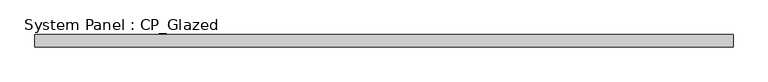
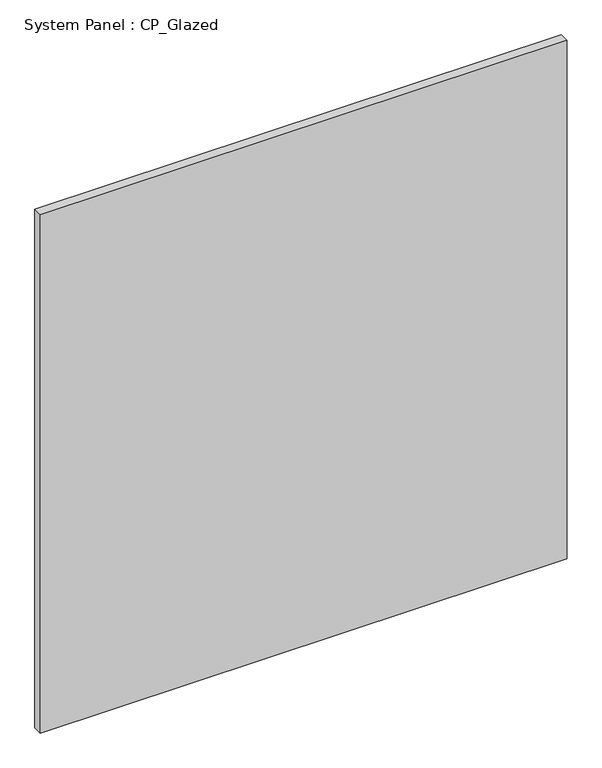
"""IFC4 building model written with IfcOpenShell, lengths in millimetres: plate geometry, System Panel : CP_Glazed."""

import ifcopenshell
import ifcopenshell.guid

model = None  # the IFC model being written
_history = None  # IfcOwnerHistory: only IFC2X3 demands one
_inside = {}  # id of a spatial element -> (the spatial element, [elements in it])
_under = {}  # id of a project, library or spatial element -> (it, [spatial elements below it])
_declared = {}  # id of a project -> (the project, [libraries it declares])
_typed = {}  # id of a type object -> (the type object, [elements of that type])
_made_of = {}  # id of a material, layer set ... -> (it, [elements and type objects made of it])


def new_model(schema):
    """Start an empty IFC model of exactly this schema.

    Asked for "IFC4X3", IfcOpenShell would pick the latest addendum, in which some entities
    have other attributes; the version numbers below select the first issue.
    IFC2X3 requires an IfcOwnerHistory on every rooted entity: one is made here for all.
    """
    global model, _history
    if schema == "IFC4X3":
        model = ifcopenshell.file(schema_version=(4, 3, 0, 0))
    else:
        model = ifcopenshell.file(schema=schema)
    _inside.clear()
    _under.clear()
    _declared.clear()
    _typed.clear()
    _made_of.clear()
    _history = None
    if model.schema == "IFC2X3":
        org = make("IfcOrganization", Name="unknown")
        user = make(
            "IfcPersonAndOrganization",
            ThePerson=make("IfcPerson", FamilyName="unknown"),
            TheOrganization=org,
        )
        app = make(
            "IfcApplication",
            ApplicationDeveloper=org,
            Version="unknown",
            ApplicationFullName="unknown",
            ApplicationIdentifier="unknown",
        )
        _history = make(
            "IfcOwnerHistory",
            OwningUser=user,
            OwningApplication=app,
            ChangeAction="ADDED",
            CreationDate=0,
        )
    return model


def make(cls, **values):
    """One entity of the class cls with the attributes given. An attribute that is None is left unset."""
    return model.create_entity(
        cls, **{name: value for name, value in values.items() if value is not None}
    )


def rooted(cls, **values):
    """An entity with a GlobalId (a new one), such as an element, a storey or a relation."""
    return make(cls, GlobalId=ifcopenshell.guid.new(), OwnerHistory=_history, **values)


def si_unit(unit_type, name, prefix=None):
    """IfcSIUnit, for example si_unit("LENGTHUNIT", "METRE", prefix="MILLI")."""
    return make("IfcSIUnit", UnitType=unit_type, Prefix=prefix, Name=name)


def assignment(units):
    """IfcUnitAssignment: the units of a project."""
    return None if units is None else make("IfcUnitAssignment", Units=units)


def point(xyz):
    """IfcCartesianPoint."""
    return None if xyz is None else make("IfcCartesianPoint", Coordinates=xyz)


def direction(xyz):
    """IfcDirection."""
    return None if xyz is None else make("IfcDirection", DirectionRatios=xyz)


def frame(location, z_axis=None, x_axis=None):
    """IfcAxis2Placement3D, a coordinate frame: its origin and axes. An axis left out is left unset."""
    return make(
        "IfcAxis2Placement3D",
        Location=point(location),
        Axis=direction(z_axis),
        RefDirection=direction(x_axis),
    )


def origin():
    """The frame at (0, 0, 0) with its axes left unset."""
    return frame((0.0, 0.0, 0.0))


def origin_with_axes():
    """The frame at (0, 0, 0) with the z axis (0, 0, 1) and the x axis (1, 0, 0) written out."""
    return frame((0.0, 0.0, 0.0), z_axis=(0.0, 0.0, 1.0), x_axis=(1.0, 0.0, 0.0))


def place(relative_to, where):
    """IfcLocalPlacement: puts the frame where relative to a parent placement (None: the world)."""
    return make(
        "IfcLocalPlacement", PlacementRelTo=relative_to, RelativePlacement=where
    )


def context(
    kind, dimensions, precision=None, world=None, true_north=None, identifier=None
):
    """IfcGeometricRepresentationContext, for example the 3D "Model" context."""
    return make(
        "IfcGeometricRepresentationContext",
        ContextIdentifier=identifier,
        ContextType=kind,
        CoordinateSpaceDimension=dimensions,
        Precision=precision,
        WorldCoordinateSystem=world,
        TrueNorth=true_north,
    )


def project(units=None, contexts=None):
    """IfcProject with its units and contexts."""
    return rooted(
        "IfcProject",
        Name="project",
        RepresentationContexts=contexts,
        UnitsInContext=assignment(units),
    )


def spatial(cls, under=None, at=None, **own):
    """A site, building, storey or space (cls), placed at a placement, below another one or the project."""
    s = rooted(cls, ObjectPlacement=at, **own)
    if under is not None:
        _under.setdefault(under.id(), (under, []))[1].append(s)
    return s


def polyline(points):
    """IfcPolyline through the points."""
    return make("IfcPolyline", Points=[point(p) for p in points])


def outline(outer, holes=None, kind="AREA"):
    """IfcArbitraryClosedProfileDef: a profile drawn as a closed curve; with holes, ...WithVoids."""
    if holes is None:
        return make("IfcArbitraryClosedProfileDef", ProfileType=kind, OuterCurve=outer)
    return make(
        "IfcArbitraryProfileDefWithVoids",
        ProfileType=kind,
        OuterCurve=outer,
        InnerCurves=holes,
    )


def extrude(swept, where, along, depth):
    """IfcExtrudedAreaSolid: the profile swept, set in the frame where, extruded along a direction by depth."""
    return make(
        "IfcExtrudedAreaSolid",
        SweptArea=swept,
        Position=where,
        ExtrudedDirection=direction(along),
        Depth=depth,
    )


def shape(context_of_items, identifier, shape_type, items):
    """IfcShapeRepresentation: the items that make up one representation, for example the "Body"."""
    return make(
        "IfcShapeRepresentation",
        ContextOfItems=context_of_items,
        RepresentationIdentifier=identifier,
        RepresentationType=shape_type,
        Items=items,
    )


def source(mapping_origin, context_of_items, identifier, shape_type, items):
    """IfcRepresentationMap: a shape defined once, which mapped items show again and again."""
    return make(
        "IfcRepresentationMap",
        MappingOrigin=mapping_origin,
        MappedRepresentation=shape(context_of_items, identifier, shape_type, items),
    )


def transform(
    local_origin,
    x_axis=None,
    y_axis=None,
    z_axis=None,
    scale=None,
    scale2=None,
    scale3=None,
    uniform=True,
):
    """IfcCartesianTransformationOperator3D, or its non-uniform kind. x_axis, y_axis, z_axis: its Axis1, 2, 3."""
    if uniform:
        return make(
            "IfcCartesianTransformationOperator3D",
            Axis1=direction(x_axis),
            Axis2=direction(y_axis),
            LocalOrigin=point(local_origin),
            Scale=scale,
            Axis3=direction(z_axis),
        )
    return make(
        "IfcCartesianTransformationOperator3DnonUniform",
        Axis1=direction(x_axis),
        Axis2=direction(y_axis),
        LocalOrigin=point(local_origin),
        Scale=scale,
        Axis3=direction(z_axis),
        Scale2=scale2,
        Scale3=scale3,
    )


def mapped(mapping_source, mapping_target):
    """IfcMappedItem: shows the shape of a source again, moved by a transform."""
    return make(
        "IfcMappedItem", MappingSource=mapping_source, MappingTarget=mapping_target
    )


def made_of(thing, what):
    """Note that an element or type object is made of a material, layer set ...; save() writes the relation."""
    if what is not None:
        _made_of.setdefault(what.id(), (what, []))[1].append(thing)
    return thing


def element(
    cls,
    number,
    at=None,
    inside=None,
    cuts=None,
    type_object=None,
    material=None,
    context=None,
    identifier="Body",
    shape_type=None,
    held_by="IfcProductDefinitionShape",
    body=None,
    shapes=None,
    **own,
):
    """One element of the class cls, such as IfcWall. Its Tag is "e" and its number.

    at: its placement. inside: the storey or other place that contains it. cuts: it is an
    opening in that element (IfcRelVoidsElement). A single representation is given by context,
    identifier, shape_type and body (its items); several are given by shapes. held_by: the class
    of the entity that holds the representations. save() writes the other relations.
    """
    e = rooted(cls, Tag="e%d" % number, ObjectPlacement=at, **own)
    if body is not None:
        shapes = [shape(context, identifier, shape_type, body)]
    if shapes is not None:
        e.Representation = make(held_by, Representations=shapes)
    if inside is not None:
        _inside.setdefault(inside.id(), (inside, []))[1].append(e)
    if cuts is not None:
        rooted(
            "IfcRelVoidsElement", RelatingBuildingElement=cuts, RelatedOpeningElement=e
        )
    if type_object is not None:
        _typed.setdefault(type_object.id(), (type_object, []))[1].append(e)
    return made_of(e, material)


def aggregate(whole, parts):
    """IfcRelAggregates: a whole, such as a stair, and the parts it consists of."""
    return rooted("IfcRelAggregates", RelatingObject=whole, RelatedObjects=parts)


def save(model, path):
    """Write the relations noted so far, then the file.

    IfcRelAggregates (storeys below a building ...), IfcRelContainedInSpatialStructure (elements
    in a storey), IfcRelDefinesByType, IfcRelAssociatesMaterial and IfcRelDeclares: one each for
    every whole, place, type object, material and project.
    """
    for whole, parts in _under.values():
        aggregate(whole, parts)
    for where, things in _inside.values():
        rooted(
            "IfcRelContainedInSpatialStructure",
            RelatedElements=things,
            RelatingStructure=where,
        )
    for kind, things in _typed.values():
        rooted("IfcRelDefinesByType", RelatedObjects=things, RelatingType=kind)
    for what, things in _made_of.values():
        rooted("IfcRelAssociatesMaterial", RelatedObjects=things, RelatingMaterial=what)
    for by, libraries in _declared.values():
        rooted("IfcRelDeclares", RelatingContext=by, RelatedDefinitions=libraries)
    model.write(path)


def system_panel_cp_glazed_0b187b06(model_context):
    return source(origin(), model_context, "Body", "SweptSolid", [
        extrude(outline(polyline([(711.2, 19.05), (-711.2, 19.05), (-711.2, 44.45), (711.2, 44.45), (711.2, 19.05)])), origin_with_axes(), (0.0, 0.0, 1.0), 1479.55),
    ])


if __name__ == "__main__":
    model = new_model("IFC4")
    model_context = context("Model", 3, world=origin())
    ifc_project = project(units=[si_unit("LENGTHUNIT", "METRE", prefix="MILLI")], contexts=[model_context])
    site = spatial("IfcSite", under=ifc_project)
    building = spatial("IfcBuilding", under=site)
    placement = place(None, origin())
    system_panel_cp_glazed_shape = system_panel_cp_glazed_0b187b06(model_context)
    element("IfcPlate", 1, ObjectType="System Panel : CP_Glazed", at=placement, inside=building, context=model_context, shape_type="MappedRepresentation", body=[
        mapped(system_panel_cp_glazed_shape, transform((0.0, 0.0, 0.0), x_axis=(1.0, 0.0, 0.0), y_axis=(0.0, 1.0, 0.0), z_axis=(0.0, 0.0, 1.0))),
    ])
    save(model, "model.ifc")
